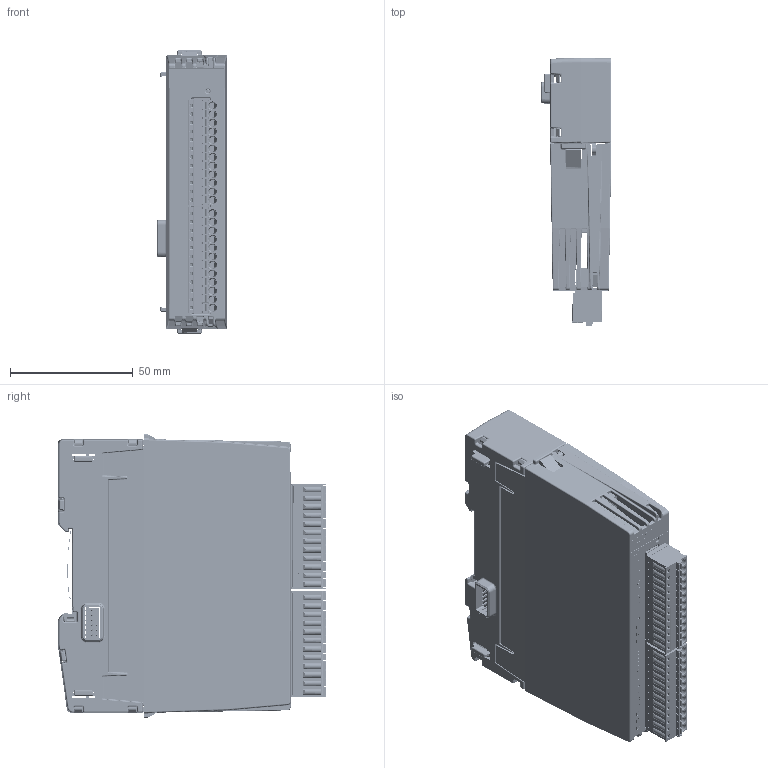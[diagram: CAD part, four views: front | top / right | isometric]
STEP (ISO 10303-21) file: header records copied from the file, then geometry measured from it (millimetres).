
FILE_DESCRIPTION(/* description */ (''),/* implementation_level */ '2;1');
FILE_NAME(/* name */ 'C:\Users\Public\Documents\Autodesk\Inventor 2023\DI20B_Simplified+BackBB21B.stp',/* time_stamp */ '2024-10-15T20:47:40+02:00',/* author */ ('shoma'),/* organization */ (''),/* preprocessor_version */ 'ST-DEVELOPER v19',/* originating_system */ 'Autodesk Inventor 2023',/* authorisation */ '');
FILE_SCHEMA (('AUTOMOTIVE_DESIGN { 1 0 10303 214 3 1 1 }'));
Products named in the file (1): DI20B_Simplified+BackBB21B
Bounding box: 28.9 x 109.39 x 115.5 mm (x, y, z)
Volume: 153432.3 mm3; surface area: 92866.2 mm2
Topology: 8 solids, 56 shells, 9302 faces, 24626 edges, 15518 vertices
Faces by surface type: plane 5597, cylinder 2391, bspline 874, cone 233, sphere 162, torus 45
Full cylindrical faces by diameter (mm): 0.296 x2, 0.3 x152, 0.457 x2, 0.7 x36, 0.8 x6, 0.85 x24, 0.9 x8, 1.17 x24, 1.2 x24, 1.25 x24, 1.3 x24, 1.4 x4, 1.6 x26, 2.35 x2, 2.5 x1, 3 x1, 3.1 x24, 3.25 x2
Entity records: 321447 total; most frequent: CARTESIAN_POINT 82784, ORIENTED_EDGE 48946, DIRECTION 45412, EDGE_CURVE 24473, LINE 17234, VECTOR 17234, VERTEX_POINT 15518, AXIS2_PLACEMENT_3D 14089
